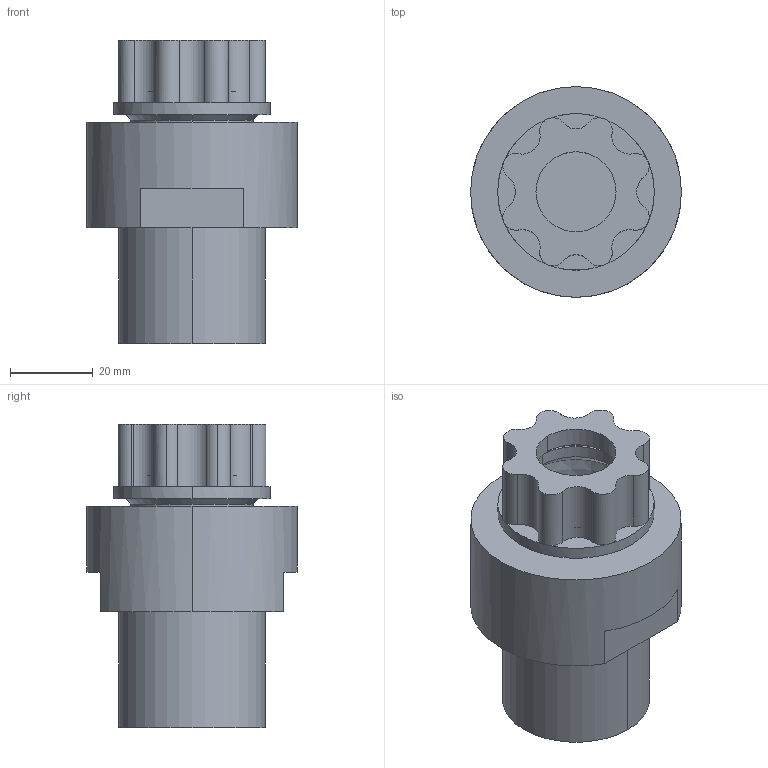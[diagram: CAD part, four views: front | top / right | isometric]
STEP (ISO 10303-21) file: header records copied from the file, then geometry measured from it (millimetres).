
FILE_DESCRIPTION (( 'STEP AP214' ), '1' );
FILE_NAME ('12-synchro-flare.STEP', '2012-12-03T17:08:31', ( '' ), ( '' ), 'SwSTEP 2.0', 'SolidWorks 2012', '' );
FILE_SCHEMA (( 'AUTOMOTIVE_DESIGN' ));
Length unit declared in the file: inch
Products named in the file (1): 12-synchro-flare
Bounding box: 50.8 x 50.8 x 73.05 mm (x, y, z)
Volume: 79762 mm3; surface area: 17682.8 mm2
Topology: 1 solids, 1 shells, 67 faces, 159 edges, 100 vertices
Faces by surface type: cylinder 39, plane 20, cone 8
Entity records: 2052 total; most frequent: DIRECTION 399, CARTESIAN_POINT 327, ORIENTED_EDGE 318, AXIS2_PLACEMENT_3D 172, EDGE_CURVE 159, CIRCLE 104, VERTEX_POINT 100, EDGE_LOOP 73
